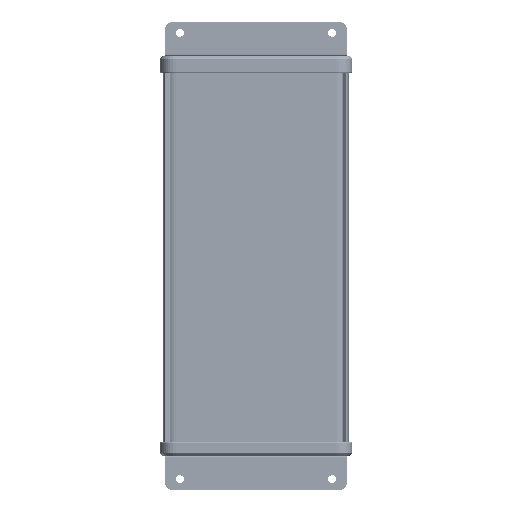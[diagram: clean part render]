
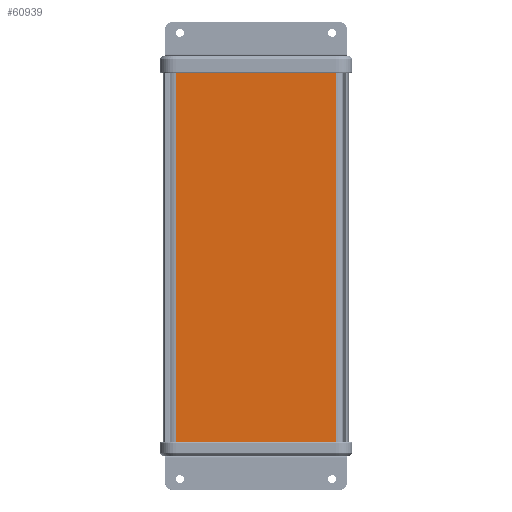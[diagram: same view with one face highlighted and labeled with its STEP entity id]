
A CAD part, front view. The second image highlights one B-rep face of the part: STEP entity #60939.
In plain terms, the highlighted planar face has unit normal (0, -1, 0).
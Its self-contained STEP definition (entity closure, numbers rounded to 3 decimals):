
#509 = LINE ( 'NONE', #61126, #121088 ) ;
#11219 = ORIENTED_EDGE ( 'NONE', *, *, #142937, .F. ) ;
#12773 = CARTESIAN_POINT ( 'NONE',  ( -44.75, -29., -105. ) ) ;
#13235 = DIRECTION ( 'NONE',  ( -1., 0., 0. ) ) ;
#19272 = CARTESIAN_POINT ( 'NONE',  ( -44.75, -29., -105. ) ) ;
#23531 = VERTEX_POINT ( 'NONE', #12773 ) ;
#31196 = EDGE_CURVE ( 'NONE', #155788, #154027, #48196, .T. ) ;
#33034 = ORIENTED_EDGE ( 'NONE', *, *, #31196, .T. ) ;
#34860 = CARTESIAN_POINT ( 'NONE',  ( 44.75, -29., 105. ) ) ;
#45884 = EDGE_CURVE ( 'NONE', #23531, #154027, #156321, .T. ) ;
#48196 = LINE ( 'NONE', #122560, #112126 ) ;
#48213 = ORIENTED_EDGE ( 'NONE', *, *, #45884, .F. ) ;
#51503 = PLANE ( 'NONE',  #180874 ) ;
#59280 = EDGE_LOOP ( 'NONE', ( #33034, #48213, #11219, #76973 ) ) ;
#60939 = ADVANCED_FACE ( 'NONE', ( #185485 ), #51503, .T. ) ;
#61126 = CARTESIAN_POINT ( 'NONE',  ( -44.75, -29., -105. ) ) ;
#76973 = ORIENTED_EDGE ( 'NONE', *, *, #133275, .T. ) ;
#83093 = DIRECTION ( 'NONE',  ( 0., -1., 0. ) ) ;
#112126 = VECTOR ( 'NONE', #13235, 1000. ) ;
#114247 = LINE ( 'NONE', #179645, #192876 ) ;
#114572 = VECTOR ( 'NONE', #145121, 1000. ) ;
#121088 = VECTOR ( 'NONE', #155317, 1000. ) ;
#122560 = CARTESIAN_POINT ( 'NONE',  ( -44.75, -29., 105. ) ) ;
#124672 = VERTEX_POINT ( 'NONE', #182356 ) ;
#133275 = EDGE_CURVE ( 'NONE', #124672, #155788, #114247, .T. ) ;
#142937 = EDGE_CURVE ( 'NONE', #124672, #23531, #509, .T. ) ;
#145121 = DIRECTION ( 'NONE',  ( 0., 0., 1. ) ) ;
#154027 = VERTEX_POINT ( 'NONE', #168698 ) ;
#155317 = DIRECTION ( 'NONE',  ( -1., 0., 0. ) ) ;
#155788 = VERTEX_POINT ( 'NONE', #34860 ) ;
#156321 = LINE ( 'NONE', #19272, #114572 ) ;
#163890 = DIRECTION ( 'NONE',  ( 0., 0., 1. ) ) ;
#168698 = CARTESIAN_POINT ( 'NONE',  ( -44.75, -29., 105. ) ) ;
#177183 = CARTESIAN_POINT ( 'NONE',  ( -44.75, -29., -105. ) ) ;
#179645 = CARTESIAN_POINT ( 'NONE',  ( 44.75, -29., -105. ) ) ;
#180874 = AXIS2_PLACEMENT_3D ( 'NONE', #177183, #83093, #193036 ) ;
#182356 = CARTESIAN_POINT ( 'NONE',  ( 44.75, -29., -105. ) ) ;
#185485 = FACE_OUTER_BOUND ( 'NONE', #59280, .T. ) ;
#192876 = VECTOR ( 'NONE', #163890, 1000. ) ;
#193036 = DIRECTION ( 'NONE',  ( -1., 0., 0. ) ) ;
